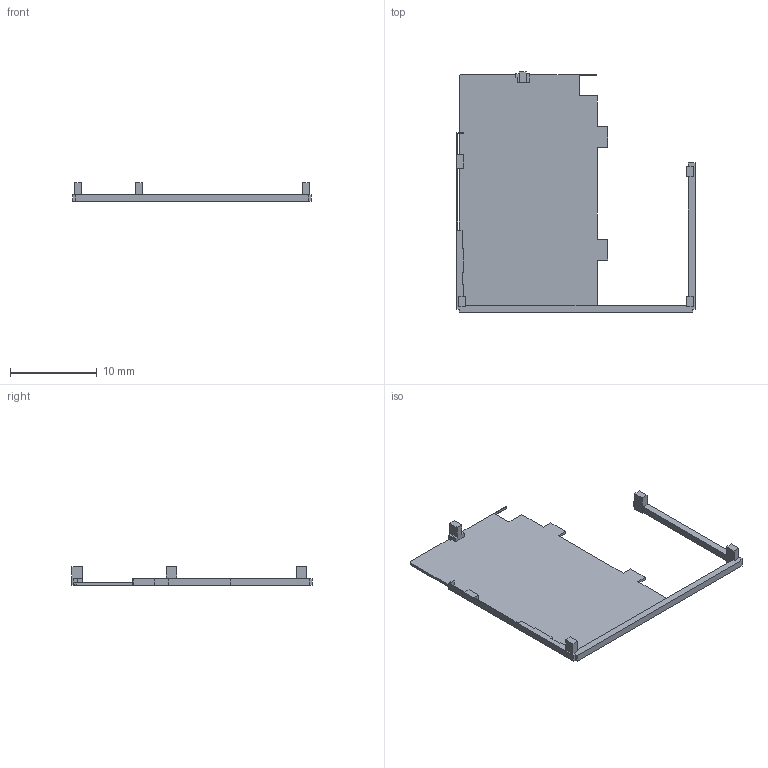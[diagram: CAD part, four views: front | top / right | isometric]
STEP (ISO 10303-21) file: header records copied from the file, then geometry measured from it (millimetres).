
FILE_DESCRIPTION(('Open CASCADE Model'),'2;1');
FILE_NAME('Open CASCADE Shape Model','2026-10-29T14:13:48',('Author'),( 'Open CASCADE'),'Open CASCADE STEP processor 7.9','Open CASCADE 7.9' ,'Unknown');
FILE_SCHEMA(('AUTOMOTIVE_DESIGN { 1 0 10303 214 1 1 1 1 }'));
Length unit declared in the file: millimetre
Products named in the file (1): Open CASCADE STEP translator 7.9 3
Bounding box: 27.5 x 27.7 x 2.19 mm (x, y, z)
Volume: 167.2 mm3; surface area: 1069.9 mm2
Topology: 1 solids, 1 shells, 77 faces, 231 edges, 154 vertices
Faces by surface type: plane 75, cylinder 2
Entity records: 5410 total; most frequent: CARTESIAN_POINT 1103, DIRECTION 685, LINE 519, VECTOR 519, ORIENTED_EDGE 462, PCURVE 462, DEFINITIONAL_REPRESENTATION 462, EDGE_CURVE 231
